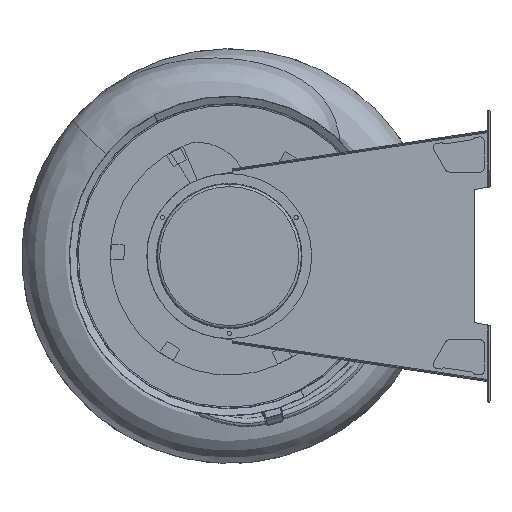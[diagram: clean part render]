
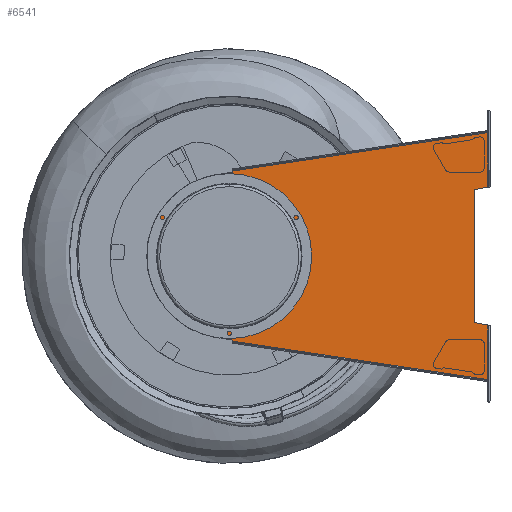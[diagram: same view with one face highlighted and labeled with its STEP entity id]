
A CAD part, left-side view. The second image highlights one B-rep face of the part: STEP entity #6541.
In plain terms, the highlighted planar face has unit normal (-1, 0, 0) as drawn and (1, 0, 0) by its records, which use the part's own axes.
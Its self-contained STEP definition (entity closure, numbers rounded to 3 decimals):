
#4441=DIRECTION('',(0.,0.,-1.));
#4442=VECTOR('',#4441,250.);
#4443=CARTESIAN_POINT('',(2.,-461.142,125.));
#4444=LINE('',#4443,#4442);
#4469=CARTESIAN_POINT('',(2.,0.,0.));
#4470=DIRECTION('',(-1.,0.,0.));
#4471=DIRECTION('',(0.,-1.,0.));
#4472=AXIS2_PLACEMENT_3D('',#4469,#4470,#4471);
#4477=CARTESIAN_POINT('',(2.,0.,0.));
#4478=DIRECTION('',(1.,0.,0.));
#4479=DIRECTION('',(0.,-1.,0.));
#4480=AXIS2_PLACEMENT_3D('',#4477,#4478,#4479);
#4485=DIRECTION('',(0.,-0.989,-0.149));
#4486=VECTOR('',#4485,3.105);
#4487=CARTESIAN_POINT('',(2.,23.07,-153.273));
#4488=LINE('',#4487,#4486);
#4492=DIRECTION('',(0.,-0.989,-0.149));
#4493=VECTOR('',#4492,6.895);
#4494=CARTESIAN_POINT('',(2.,20.,-153.736));
#4495=LINE('',#4494,#4493);
#4499=DIRECTION('',(0.,-0.989,-0.149));
#4500=VECTOR('',#4499,20.342);
#4501=CARTESIAN_POINT('',(2.,13.182,-154.762));
#4502=LINE('',#4501,#4500);
#4506=CARTESIAN_POINT('',(2.,-21.767,-160.022));
#4507=DIRECTION('',(-1.,0.,0.));
#4508=DIRECTION('',(0.,0.989,0.149));
#4509=AXIS2_PLACEMENT_3D('',#4506,#4507,#4508);
#4514=DIRECTION('',(0.,0.989,0.149));
#4515=VECTOR('',#4514,3.853);
#4516=CARTESIAN_POINT('',(2.,-486.,-231.92));
#4517=LINE('',#4516,#4515);
#4521=DIRECTION('',(0.,0.985,0.174));
#4522=VECTOR('',#4521,25.242);
#4523=CARTESIAN_POINT('',(2.,-486.,-129.383));
#4524=LINE('',#4523,#4522);
#4528=DIRECTION('',(0.,0.985,-0.174));
#4529=VECTOR('',#4528,25.242);
#4530=CARTESIAN_POINT('',(2.,-486.,129.383));
#4531=LINE('',#4530,#4529);
#4535=DIRECTION('',(0.,0.989,-0.149));
#4536=VECTOR('',#4535,3.853);
#4537=CARTESIAN_POINT('',(2.,-486.,231.92));
#4538=LINE('',#4537,#4536);
#4542=CARTESIAN_POINT('',(2.,-21.767,160.022));
#4543=DIRECTION('',(1.,0.,0.));
#4544=DIRECTION('',(0.,0.989,-0.149));
#4545=AXIS2_PLACEMENT_3D('',#4542,#4543,#4544);
#4550=DIRECTION('',(0.,-0.989,0.149));
#4551=VECTOR('',#4550,20.342);
#4552=CARTESIAN_POINT('',(2.,13.182,154.762));
#4553=LINE('',#4552,#4551);
#4557=DIRECTION('',(0.,-0.989,0.149));
#4558=VECTOR('',#4557,6.895);
#4559=CARTESIAN_POINT('',(2.,20.,153.736));
#4560=LINE('',#4559,#4558);
#4564=DIRECTION('',(0.,-0.989,0.149));
#4565=VECTOR('',#4564,3.105);
#4566=CARTESIAN_POINT('',(2.,23.07,153.273));
#4567=LINE('',#4566,#4565);
#4593=CARTESIAN_POINT('',(2.,0.,0.));
#4594=DIRECTION('',(1.,0.,0.));
#4595=DIRECTION('',(0.,0.149,-0.989));
#4596=AXIS2_PLACEMENT_3D('',#4593,#4594,#4595);
#4853=CARTESIAN_POINT('',(2.,-6.769,-159.787));
#4877=DIRECTION('',(0.,-0.989,-0.149));
#4878=VECTOR('',#4877,480.777);
#4879=CARTESIAN_POINT('',(2.,-6.769,-159.787));
#4880=LINE('',#4879,#4878);
#4979=DIRECTION('',(0.,0.,1.));
#4980=VECTOR('',#4979,102.537);
#4981=CARTESIAN_POINT('',(2.,-486.,-231.92));
#4982=LINE('',#4981,#4980);
#5543=CARTESIAN_POINT('',(2.,-6.769,159.787));
#5560=DIRECTION('',(0.,-0.989,0.149));
#5561=VECTOR('',#5560,480.777);
#5562=CARTESIAN_POINT('',(2.,-6.769,159.787));
#5563=LINE('',#5562,#5561);
#5757=DIRECTION('',(0.,0.,-1.));
#5758=VECTOR('',#5757,102.537);
#5759=CARTESIAN_POINT('',(2.,-486.,231.92));
#5760=LINE('',#5759,#5758);
#6157=CARTESIAN_POINT('',(2.,-33.,0.));
#6158=CARTESIAN_POINT('',(2.,33.,0.));
#6159=VERTEX_POINT('',#6157);
#6160=VERTEX_POINT('',#6158);
#6162=CARTESIAN_POINT('',(2.,23.07,153.273));
#6164=VERTEX_POINT('',#6162);
#6181=CARTESIAN_POINT('',(2.,-486.,231.92));
#6182=CARTESIAN_POINT('',(2.,-482.19,231.347));
#6183=VERTEX_POINT('',#6181);
#6184=VERTEX_POINT('',#6182);
#6235=CARTESIAN_POINT('',(2.,-486.,129.383));
#6236=VERTEX_POINT('',#6235);
#6238=CARTESIAN_POINT('',(2.,23.07,-153.273));
#6240=VERTEX_POINT('',#6238);
#6257=CARTESIAN_POINT('',(2.,-486.,-231.92));
#6258=CARTESIAN_POINT('',(2.,-482.19,-231.347));
#6259=VERTEX_POINT('',#6257);
#6260=VERTEX_POINT('',#6258);
#6298=CARTESIAN_POINT('',(2.,-486.,-129.383));
#6299=VERTEX_POINT('',#6298);
#6304=CARTESIAN_POINT('',(2.,-461.142,125.));
#6305=VERTEX_POINT('',#6304);
#6310=CARTESIAN_POINT('',(2.,-461.142,-125.));
#6311=VERTEX_POINT('',#6310);
#6320=CARTESIAN_POINT('',(2.,20.,153.736));
#6321=CARTESIAN_POINT('',(2.,13.182,154.762));
#6322=VERTEX_POINT('',#6320);
#6323=VERTEX_POINT('',#6321);
#6329=VERTEX_POINT('',#5543);
#6338=CARTESIAN_POINT('',(2.,20.,-153.736));
#6339=CARTESIAN_POINT('',(2.,13.182,-154.762));
#6340=VERTEX_POINT('',#6338);
#6341=VERTEX_POINT('',#6339);
#6347=VERTEX_POINT('',#4853);
#6366=CARTESIAN_POINT('',(2.,-6.934,157.79));
#6367=VERTEX_POINT('',#6366);
#6370=CARTESIAN_POINT('',(2.,-6.934,-157.79));
#6371=VERTEX_POINT('',#6370);
#6493=CARTESIAN_POINT('',(2.,0.,0.));
#6494=DIRECTION('',(1.,0.,0.));
#6495=DIRECTION('',(0.,0.,-1.));
#6496=AXIS2_PLACEMENT_3D('',#6493,#6494,#6495);
#6497=PLANE('',#6496);
#6499=ORIENTED_EDGE('',*,*,#6498,.F.);
#6501=ORIENTED_EDGE('',*,*,#6500,.T.);
#6503=ORIENTED_EDGE('',*,*,#6502,.T.);
#6505=ORIENTED_EDGE('',*,*,#6504,.T.);
#6507=ORIENTED_EDGE('',*,*,#6506,.T.);
#6509=ORIENTED_EDGE('',*,*,#6508,.T.);
#6511=ORIENTED_EDGE('',*,*,#6510,.F.);
#6513=ORIENTED_EDGE('',*,*,#6512,.T.);
#6515=ORIENTED_EDGE('',*,*,#6514,.T.);
#6516=ORIENTED_EDGE('',*,*,#6483,.F.);
#6518=ORIENTED_EDGE('',*,*,#6517,.F.);
#6520=ORIENTED_EDGE('',*,*,#6519,.F.);
#6522=ORIENTED_EDGE('',*,*,#6521,.T.);
#6524=ORIENTED_EDGE('',*,*,#6523,.F.);
#6526=ORIENTED_EDGE('',*,*,#6525,.F.);
#6528=ORIENTED_EDGE('',*,*,#6527,.F.);
#6530=ORIENTED_EDGE('',*,*,#6529,.F.);
#6532=ORIENTED_EDGE('',*,*,#6531,.F.);
#6533=EDGE_LOOP('',(#6499,#6501,#6503,#6505,#6507,#6509,#6511,#6513,#6515,#6516,
#6518,#6520,#6522,#6524,#6526,#6528,#6530,#6532));
#6534=FACE_OUTER_BOUND('',#6533,.F.);
#6536=ORIENTED_EDGE('',*,*,#6535,.F.);
#6538=ORIENTED_EDGE('',*,*,#6537,.T.);
#6539=EDGE_LOOP('',(#6536,#6538));
#6540=FACE_BOUND('',#6539,.F.);
#4473=CIRCLE('',#4472,33.);
#4481=CIRCLE('',#4480,33.);
#4510=CIRCLE('',#4509,15.);
#4546=CIRCLE('',#4545,15.);
#4597=CIRCLE('',#4596,155.);
#6483=EDGE_CURVE('',#6305,#6311,#4444,.T.);
#6498=EDGE_CURVE('',#6240,#6164,#4597,.T.);
#6500=EDGE_CURVE('',#6240,#6340,#4488,.T.);
#6502=EDGE_CURVE('',#6340,#6341,#4495,.T.);
#6504=EDGE_CURVE('',#6341,#6371,#4502,.T.);
#6506=EDGE_CURVE('',#6371,#6347,#4510,.T.);
#6508=EDGE_CURVE('',#6347,#6260,#4880,.T.);
#6510=EDGE_CURVE('',#6259,#6260,#4517,.T.);
#6512=EDGE_CURVE('',#6259,#6299,#4982,.T.);
#6514=EDGE_CURVE('',#6299,#6311,#4524,.T.);
#6517=EDGE_CURVE('',#6236,#6305,#4531,.T.);
#6519=EDGE_CURVE('',#6183,#6236,#5760,.T.);
#6521=EDGE_CURVE('',#6183,#6184,#4538,.T.);
#6523=EDGE_CURVE('',#6329,#6184,#5563,.T.);
#6525=EDGE_CURVE('',#6367,#6329,#4546,.T.);
#6527=EDGE_CURVE('',#6323,#6367,#4553,.T.);
#6529=EDGE_CURVE('',#6322,#6323,#4560,.T.);
#6531=EDGE_CURVE('',#6164,#6322,#4567,.T.);
#6535=EDGE_CURVE('',#6159,#6160,#4473,.T.);
#6537=EDGE_CURVE('',#6159,#6160,#4481,.T.);
#6541=ADVANCED_FACE('',(#6534,#6540),#6497,.T.);
